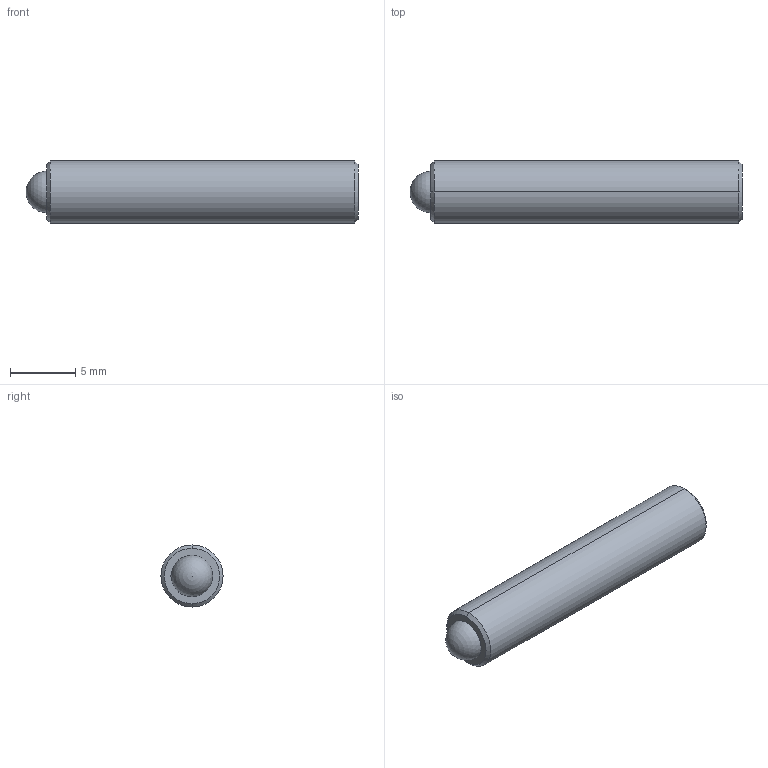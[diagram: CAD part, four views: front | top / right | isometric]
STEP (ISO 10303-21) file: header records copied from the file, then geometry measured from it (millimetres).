
FILE_DESCRIPTION (( 'STEP AP214' ), '1' );
FILE_NAME ('TS187-100-1000-HV.STEP', '2013-05-09T12:28:47', ( 'workpc' ), ( 'Microsoft' ), 'SwSTEP 2.0', 'SolidWorks 2013', '' );
FILE_SCHEMA (( 'AUTOMOTIVE_DESIGN' ));
Length unit declared in the file: inch
Products named in the file (1): TS187-100-1000-HV
Bounding box: 25.4 x 4.75 x 4.75 mm (x, y, z)
Volume: 417.4 mm3; surface area: 449.5 mm2
Topology: 2 solids, 2 shells, 24 faces, 57 edges, 37 vertices
Faces by surface type: plane 10, cylinder 8, cone 4, sphere 2
Entity records: 739 total; most frequent: DIRECTION 124, CARTESIAN_POINT 111, ORIENTED_EDGE 104, EDGE_CURVE 52, AXIS2_PLACEMENT_3D 47, VERTEX_POINT 34, VECTOR 30, LINE 30
